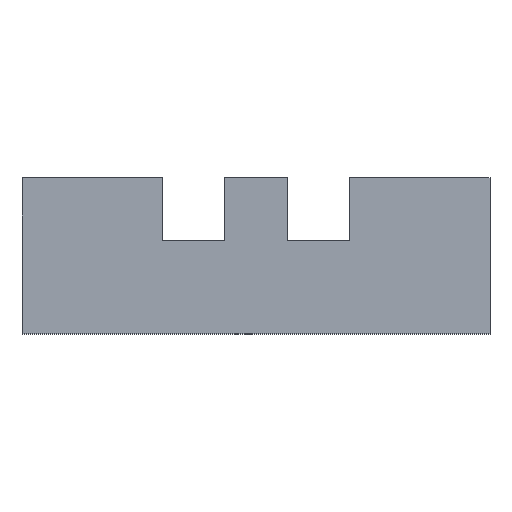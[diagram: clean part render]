
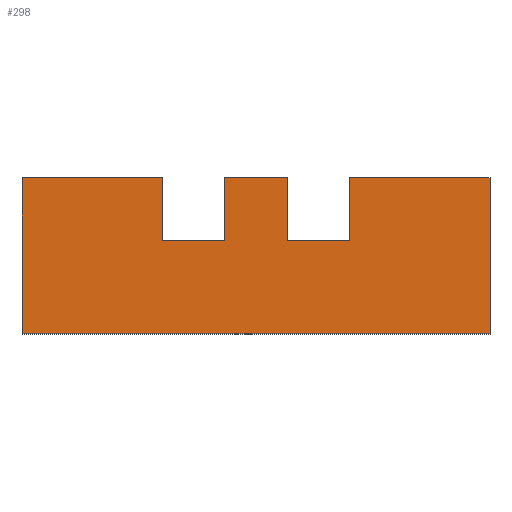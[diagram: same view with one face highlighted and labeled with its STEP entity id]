
A CAD part, top view. The second image highlights one B-rep face of the part: STEP entity #298.
In plain terms, the highlighted planar face has unit normal (0, 0, 1).
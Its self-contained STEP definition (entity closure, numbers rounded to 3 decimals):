
#24 = CARTESIAN_POINT ( 'NONE',  ( 50., 25., 22. ) ) ;
#72 = EDGE_CURVE ( 'NONE', #1899, #2757, #349, .T. ) ;
#77 = DIRECTION ( 'NONE',  ( 0., -1., 0. ) ) ;
#86 = CARTESIAN_POINT ( 'NONE',  ( -17.5, 0., 22. ) ) ;
#151 = VECTOR ( 'NONE', #2623, 1000. ) ;
#206 = DIRECTION ( 'NONE',  ( 1., 0., 0. ) ) ;
#247 = EDGE_CURVE ( 'NONE', #2120, #2212, #2650, .T. ) ;
#298 = ADVANCED_FACE ( 'NONE', ( #1531 ), #1977, .F. ) ;
#349 = LINE ( 'NONE', #1199, #2532 ) ;
#426 = LINE ( 'NONE', #647, #2388 ) ;
#460 = CARTESIAN_POINT ( 'NONE',  ( -17.5, 25., 22. ) ) ;
#475 = DIRECTION ( 'NONE',  ( 0., 0., -1. ) ) ;
#484 = DIRECTION ( 'NONE',  ( 1., 0., 0. ) ) ;
#485 = AXIS2_PLACEMENT_3D ( 'NONE', #2432, #475, #1322 ) ;
#499 = DIRECTION ( 'NONE',  ( -1., 0., 0. ) ) ;
#517 = CARTESIAN_POINT ( 'NONE',  ( 50., 25., 22. ) ) ;
#550 = CARTESIAN_POINT ( 'NONE',  ( 25., 0., 22. ) ) ;
#584 = LINE ( 'NONE', #1224, #1575 ) ;
#594 = VECTOR ( 'NONE', #1794, 1000. ) ;
#627 = EDGE_CURVE ( 'NONE', #2589, #2757, #1262, .T. ) ;
#639 = EDGE_CURVE ( 'NONE', #2294, #1683, #1484, .T. ) ;
#647 = CARTESIAN_POINT ( 'NONE',  ( -17.5, 0., 22. ) ) ;
#659 = EDGE_CURVE ( 'NONE', #2201, #2212, #1586, .T. ) ;
#768 = CARTESIAN_POINT ( 'NONE',  ( 15., 15., 22. ) ) ;
#772 = LINE ( 'NONE', #550, #1662 ) ;
#803 = ORIENTED_EDGE ( 'NONE', *, *, #72, .T. ) ;
#858 = ORIENTED_EDGE ( 'NONE', *, *, #247, .F. ) ;
#896 = ORIENTED_EDGE ( 'NONE', *, *, #2105, .T. ) ;
#897 = CARTESIAN_POINT ( 'NONE',  ( 25., 25., 22. ) ) ;
#918 = CARTESIAN_POINT ( 'NONE',  ( 40., 15., 22. ) ) ;
#946 = CARTESIAN_POINT ( 'NONE',  ( -10., 25., 22. ) ) ;
#1029 = LINE ( 'NONE', #2738, #2343 ) ;
#1036 = VECTOR ( 'NONE', #2582, 1000. ) ;
#1044 = VERTEX_POINT ( 'NONE', #2587 ) ;
#1091 = EDGE_LOOP ( 'NONE', ( #1114, #896, #1933, #858, #2231, #2372, #2189, #1407, #1147, #803, #2431, #1837 ) ) ;
#1114 = ORIENTED_EDGE ( 'NONE', *, *, #639, .F. ) ;
#1147 = ORIENTED_EDGE ( 'NONE', *, *, #2570, .F. ) ;
#1157 = CARTESIAN_POINT ( 'NONE',  ( 15., 0., 22. ) ) ;
#1199 = CARTESIAN_POINT ( 'NONE',  ( 35., 0., 22. ) ) ;
#1224 = CARTESIAN_POINT ( 'NONE',  ( 57.5, 25., 22. ) ) ;
#1252 = DIRECTION ( 'NONE',  ( 1., 0., 0. ) ) ;
#1262 = LINE ( 'NONE', #2119, #2537 ) ;
#1321 = VERTEX_POINT ( 'NONE', #86 ) ;
#1322 = DIRECTION ( 'NONE',  ( -1., 0., 0. ) ) ;
#1338 = CARTESIAN_POINT ( 'NONE',  ( 5., 25., 22. ) ) ;
#1396 = DIRECTION ( 'NONE',  ( 0., -1., 0. ) ) ;
#1407 = ORIENTED_EDGE ( 'NONE', *, *, #2234, .F. ) ;
#1484 = LINE ( 'NONE', #517, #2003 ) ;
#1519 = CARTESIAN_POINT ( 'NONE',  ( 15., 25., 22. ) ) ;
#1531 = FACE_OUTER_BOUND ( 'NONE', #1091, .T. ) ;
#1542 = EDGE_CURVE ( 'NONE', #1321, #2619, #426, .T. ) ;
#1558 = CARTESIAN_POINT ( 'NONE',  ( 5., 0., 22. ) ) ;
#1575 = VECTOR ( 'NONE', #2053, 1000. ) ;
#1586 = LINE ( 'NONE', #918, #2049 ) ;
#1605 = CARTESIAN_POINT ( 'NONE',  ( 57.5, 25., 22. ) ) ;
#1639 = VECTOR ( 'NONE', #77, 1000. ) ;
#1662 = VECTOR ( 'NONE', #1396, 1000. ) ;
#1683 = VERTEX_POINT ( 'NONE', #897 ) ;
#1769 = CARTESIAN_POINT ( 'NONE',  ( 25., 15., 22. ) ) ;
#1794 = DIRECTION ( 'NONE',  ( -1., 0., 0. ) ) ;
#1837 = ORIENTED_EDGE ( 'NONE', *, *, #1918, .F. ) ;
#1855 = CARTESIAN_POINT ( 'NONE',  ( 35., 25., 22. ) ) ;
#1899 = VERTEX_POINT ( 'NONE', #1855 ) ;
#1918 = EDGE_CURVE ( 'NONE', #1683, #2589, #772, .T. ) ;
#1933 = ORIENTED_EDGE ( 'NONE', *, *, #659, .T. ) ;
#1951 = LINE ( 'NONE', #24, #151 ) ;
#1977 = PLANE ( 'NONE',  #485 ) ;
#2003 = VECTOR ( 'NONE', #484, 1000. ) ;
#2049 = VECTOR ( 'NONE', #499, 1000. ) ;
#2053 = DIRECTION ( 'NONE',  ( 0., -1., 0. ) ) ;
#2105 = EDGE_CURVE ( 'NONE', #2294, #2201, #2379, .T. ) ;
#2119 = CARTESIAN_POINT ( 'NONE',  ( 0., 15., 22. ) ) ;
#2120 = VERTEX_POINT ( 'NONE', #1338 ) ;
#2189 = ORIENTED_EDGE ( 'NONE', *, *, #2517, .T. ) ;
#2201 = VERTEX_POINT ( 'NONE', #768 ) ;
#2212 = VERTEX_POINT ( 'NONE', #2239 ) ;
#2231 = ORIENTED_EDGE ( 'NONE', *, *, #2704, .T. ) ;
#2234 = EDGE_CURVE ( 'NONE', #2368, #1044, #584, .T. ) ;
#2239 = CARTESIAN_POINT ( 'NONE',  ( 5., 15., 22. ) ) ;
#2294 = VERTEX_POINT ( 'NONE', #1519 ) ;
#2343 = VECTOR ( 'NONE', #1252, 1000. ) ;
#2355 = DIRECTION ( 'NONE',  ( 0., 1., 0. ) ) ;
#2368 = VERTEX_POINT ( 'NONE', #1605 ) ;
#2372 = ORIENTED_EDGE ( 'NONE', *, *, #1542, .F. ) ;
#2379 = LINE ( 'NONE', #1157, #1036 ) ;
#2388 = VECTOR ( 'NONE', #2355, 1000. ) ;
#2431 = ORIENTED_EDGE ( 'NONE', *, *, #627, .F. ) ;
#2432 = CARTESIAN_POINT ( 'NONE',  ( 50., 25., 22. ) ) ;
#2435 = CARTESIAN_POINT ( 'NONE',  ( 35., 15., 22. ) ) ;
#2484 = LINE ( 'NONE', #946, #594 ) ;
#2498 = DIRECTION ( 'NONE',  ( 0., -1., 0. ) ) ;
#2517 = EDGE_CURVE ( 'NONE', #1321, #1044, #1029, .T. ) ;
#2532 = VECTOR ( 'NONE', #2498, 1000. ) ;
#2537 = VECTOR ( 'NONE', #206, 1000. ) ;
#2570 = EDGE_CURVE ( 'NONE', #1899, #2368, #1951, .T. ) ;
#2582 = DIRECTION ( 'NONE',  ( 0., -1., 0. ) ) ;
#2587 = CARTESIAN_POINT ( 'NONE',  ( 57.5, 0., 22. ) ) ;
#2589 = VERTEX_POINT ( 'NONE', #1769 ) ;
#2619 = VERTEX_POINT ( 'NONE', #460 ) ;
#2623 = DIRECTION ( 'NONE',  ( 1., 0., 0. ) ) ;
#2650 = LINE ( 'NONE', #1558, #1639 ) ;
#2704 = EDGE_CURVE ( 'NONE', #2120, #2619, #2484, .T. ) ;
#2738 = CARTESIAN_POINT ( 'NONE',  ( 50., 0., 22. ) ) ;
#2757 = VERTEX_POINT ( 'NONE', #2435 ) ;
